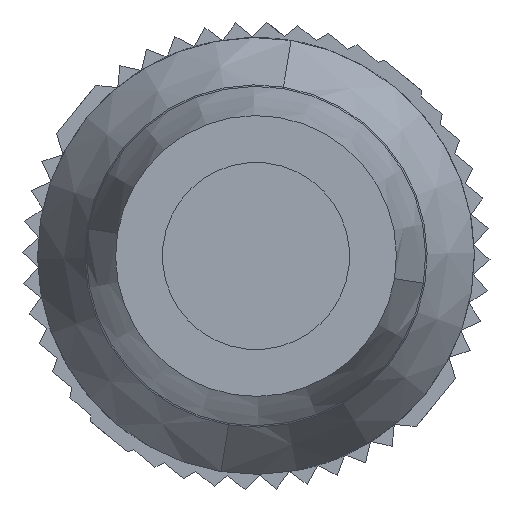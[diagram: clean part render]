
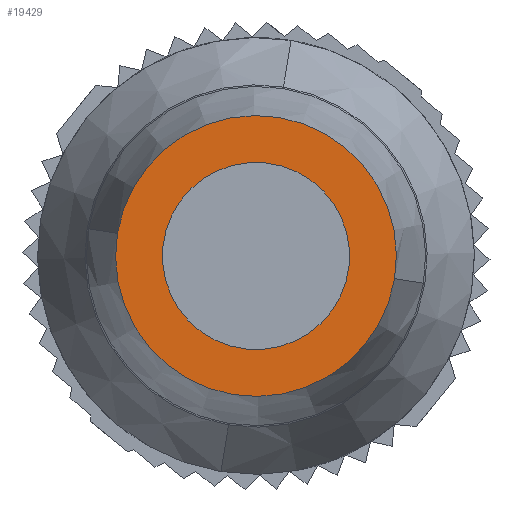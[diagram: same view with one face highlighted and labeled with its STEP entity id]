
A CAD part, left-side view. The second image highlights one B-rep face of the part: STEP entity #19429.
In plain terms, the highlighted planar face has unit normal (-1, 0, 0).
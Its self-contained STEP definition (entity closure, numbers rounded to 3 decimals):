
#146 = CARTESIAN_POINT ( 'NONE',  ( -7.5, 0., -0.223 ) ) ;
#646 = FACE_OUTER_BOUND ( 'NONE', #4242, .T. ) ;
#1205 = DIRECTION ( 'NONE',  ( 1., 0., 0. ) ) ;
#1270 = DIRECTION ( 'NONE',  ( 0., 0.987, 0.161 ) ) ;
#2304 = CIRCLE ( 'NONE', #10422, 4.5 ) ;
#2351 = CIRCLE ( 'NONE', #5071, 3. ) ;
#2876 = EDGE_CURVE ( 'NONE', #13005, #16500, #2351, .T. ) ;
#3092 = CARTESIAN_POINT ( 'NONE',  ( -7.5, 0., -0.223 ) ) ;
#4242 = EDGE_LOOP ( 'NONE', ( #20418, #22203 ) ) ;
#4259 = EDGE_CURVE ( 'NONE', #16500, #13005, #18853, .T. ) ;
#4718 = CARTESIAN_POINT ( 'NONE',  ( -7.5, -2.086, -2.38 ) ) ;
#5071 = AXIS2_PLACEMENT_3D ( 'NONE', #10065, #1205, #17054 ) ;
#5239 = AXIS2_PLACEMENT_3D ( 'NONE', #146, #7165, #7002 ) ;
#5349 = EDGE_CURVE ( 'NONE', #16545, #7084, #2304, .T. ) ;
#5833 = CIRCLE ( 'NONE', #20318, 4.5 ) ;
#7002 = DIRECTION ( 'NONE',  ( 0., -1., 0. ) ) ;
#7028 = DIRECTION ( 'NONE',  ( -1., 0., 0. ) ) ;
#7084 = VERTEX_POINT ( 'NONE', #16029 ) ;
#7165 = DIRECTION ( 'NONE',  ( 1., 0., 0. ) ) ;
#7406 = ORIENTED_EDGE ( 'NONE', *, *, #2876, .T. ) ;
#7912 = EDGE_CURVE ( 'NONE', #7084, #16545, #5833, .T. ) ;
#9873 = EDGE_LOOP ( 'NONE', ( #7406, #21554 ) ) ;
#10065 = CARTESIAN_POINT ( 'NONE',  ( -7.5, 0., -0.223 ) ) ;
#10422 = AXIS2_PLACEMENT_3D ( 'NONE', #21236, #7028, #10808 ) ;
#10808 = DIRECTION ( 'NONE',  ( 0., 0.987, 0.161 ) ) ;
#11042 = AXIS2_PLACEMENT_3D ( 'NONE', #3092, #15797, #19019 ) ;
#13005 = VERTEX_POINT ( 'NONE', #20709 ) ;
#14967 = CARTESIAN_POINT ( 'NONE',  ( -7.5, 4.442, 0.499 ) ) ;
#15181 = CARTESIAN_POINT ( 'NONE',  ( -7.5, 0., -0.223 ) ) ;
#15797 = DIRECTION ( 'NONE',  ( -1., 0., 0. ) ) ;
#16029 = CARTESIAN_POINT ( 'NONE',  ( -7.5, -4.442, -0.946 ) ) ;
#16500 = VERTEX_POINT ( 'NONE', #4718 ) ;
#16545 = VERTEX_POINT ( 'NONE', #14967 ) ;
#17054 = DIRECTION ( 'NONE',  ( 0., -1., 0. ) ) ;
#18853 = CIRCLE ( 'NONE', #5239, 3. ) ;
#18952 = DIRECTION ( 'NONE',  ( -1., 0., 0. ) ) ;
#19019 = DIRECTION ( 'NONE',  ( 0., 0.161, -0.987 ) ) ;
#19429 = ADVANCED_FACE ( 'NONE', ( #19643, #646 ), #20644, .T. ) ;
#19643 = FACE_BOUND ( 'NONE', #9873, .T. ) ;
#20318 = AXIS2_PLACEMENT_3D ( 'NONE', #15181, #18952, #1270 ) ;
#20418 = ORIENTED_EDGE ( 'NONE', *, *, #5349, .T. ) ;
#20644 = PLANE ( 'NONE',  #11042 ) ;
#20709 = CARTESIAN_POINT ( 'NONE',  ( -7.5, 2.086, 1.933 ) ) ;
#21236 = CARTESIAN_POINT ( 'NONE',  ( -7.5, 0., -0.223 ) ) ;
#21554 = ORIENTED_EDGE ( 'NONE', *, *, #4259, .T. ) ;
#22203 = ORIENTED_EDGE ( 'NONE', *, *, #7912, .T. ) ;
